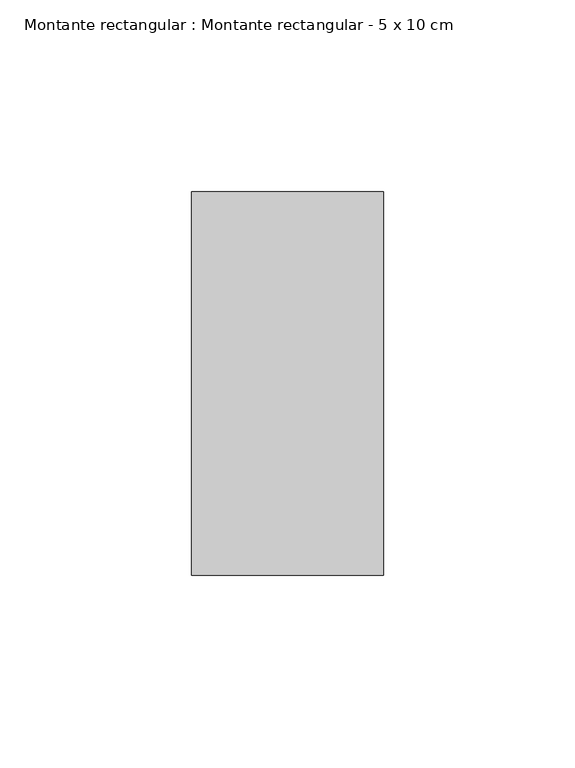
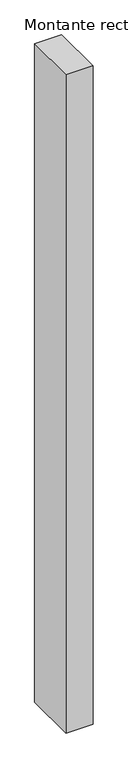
"""IFC4 building model written with IfcOpenShell, lengths in millimetres: member geometry, Montante rectangular : Montante rectangular - 5 x 10 cm."""

from ifc_helpers import new_model, si_unit, frame, origin, place, context, project, spatial, polyline, outline, extrude, source, transform, mapped, element, save


def montante_rectangular_montante_rectangular_5_x_10_cm_f70ec121(model_context):
    return source(origin(), model_context, "Body", "SweptSolid", [
        extrude(outline(polyline([(25.0, 50.0), (25.0, -50.0), (-25.0, -50.0), (-25.0, 50.0), (25.0, 50.0)])), frame((0.0, 0.0, -1285.0), z_axis=(0.0, 0.0, 1.0), x_axis=(1.0, 0.0, 0.0)), (0.0, 0.0, 1.0), 1285.0),
    ])


if __name__ == "__main__":
    model = new_model("IFC4")
    model_context = context("Model", 3, world=origin())
    ifc_project = project(units=[si_unit("LENGTHUNIT", "METRE", prefix="MILLI")], contexts=[model_context])
    site = spatial("IfcSite", under=ifc_project)
    building = spatial("IfcBuilding", under=site)
    placement = place(None, origin())
    montante_rectangular_montante_rectangular_5_x_10_cm_shape = montante_rectangular_montante_rectangular_5_x_10_cm_f70ec121(model_context)
    element("IfcMember", 1, ObjectType="Montante rectangular : Montante rectangular - 5 x 10 cm", at=placement, inside=building, context=model_context, shape_type="MappedRepresentation", body=[
        mapped(montante_rectangular_montante_rectangular_5_x_10_cm_shape, transform((0.0, 0.0, 0.0), x_axis=(1.0, 0.0, 0.0), y_axis=(0.0, 1.0, 0.0), z_axis=(0.0, 0.0, 1.0))),
    ])
    save(model, "model.ifc")
